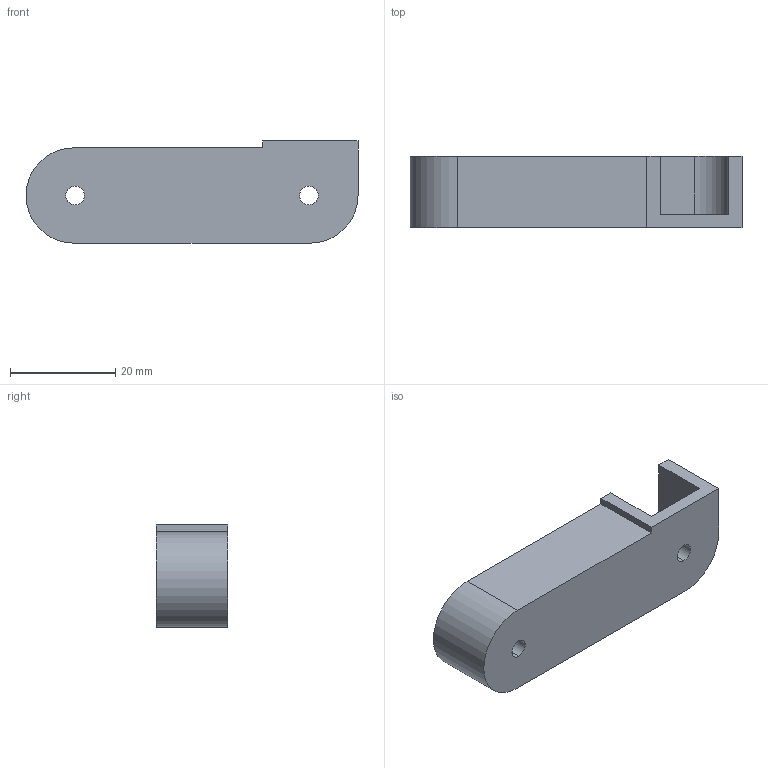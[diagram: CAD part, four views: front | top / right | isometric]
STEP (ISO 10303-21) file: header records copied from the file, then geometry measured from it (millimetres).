
FILE_DESCRIPTION (( 'STEP AP214' ), '1' );
FILE_NAME ('5060_V01_REF_STP_POCKET_SEMI-OPEN_SGL_CLIP_SERIES.STEP', '2025-06-09T11:58:16', ( '' ), ( '' ), 'SwSTEP 2.0', 'SolidWorks 2025', '' );
FILE_SCHEMA (( 'AUTOMOTIVE_DESIGN' ));
Length unit declared in the file: inch
Products named in the file (1): 5060_V01_REF_STP_POCKET_SEMI-OPEN_SGL_CLIP_SERIES
Bounding box: 63.13 x 13.54 x 19.43 mm (x, y, z)
Volume: 6464.6 mm3; surface area: 5592.7 mm2
Topology: 1 solids, 1 shells, 20 faces, 54 edges, 36 vertices
Faces by surface type: plane 12, cylinder 8
Entity records: 669 total; most frequent: DIRECTION 112, CARTESIAN_POINT 111, ORIENTED_EDGE 108, EDGE_CURVE 54, LINE 38, VECTOR 38, AXIS2_PLACEMENT_3D 37, VERTEX_POINT 36
